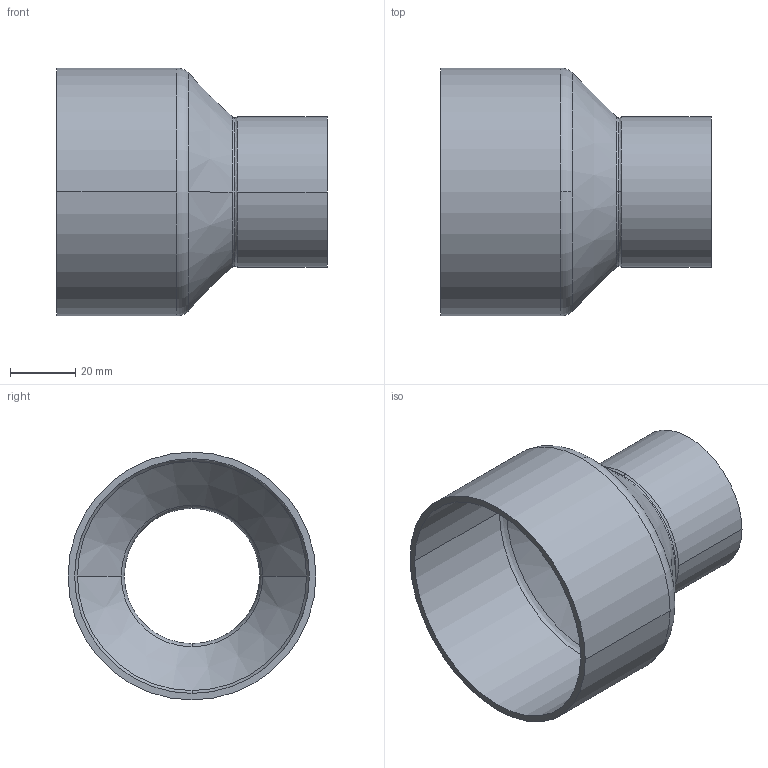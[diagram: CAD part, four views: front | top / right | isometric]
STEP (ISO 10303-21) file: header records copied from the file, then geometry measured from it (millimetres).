
FILE_DESCRIPTION((''),'2;1');
FILE_NAME('G:\Technics\CAD\Bauteile\Serie 15243\152437642.stp','2005-10-21T12:49:51',('boden'),(''),'Autodesk Inventor 8','Autodesk Inventor 8','');
FILE_SCHEMA(('AUTOMOTIVE_DESIGN { 1 0 10303 214 1 1 1 1 }'));
Length unit declared in the file: millimetre
Products named in the file (1): 152437642
Bounding box: 83 x 76.1 x 76.1 mm (x, y, z)
Volume: 33911.7 mm3; surface area: 34656 mm2
Topology: 1 solids, 1 shells, 26 faces, 68 edges, 44 vertices
Faces by surface type: cylinder 8, torus 6, bspline 6, cone 4, plane 2
Entity records: 1103 total; most frequent: CARTESIAN_POINT 403, DIRECTION 166, ORIENTED_EDGE 136, AXIS2_PLACEMENT_3D 77, EDGE_CURVE 68, CIRCLE 56, VERTEX_POINT 44, EDGE_LOOP 28
